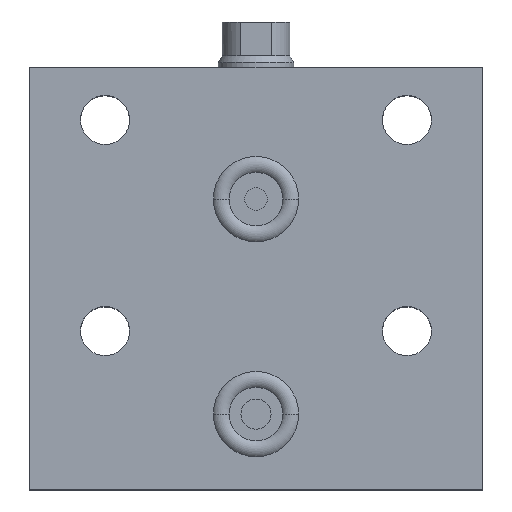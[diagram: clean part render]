
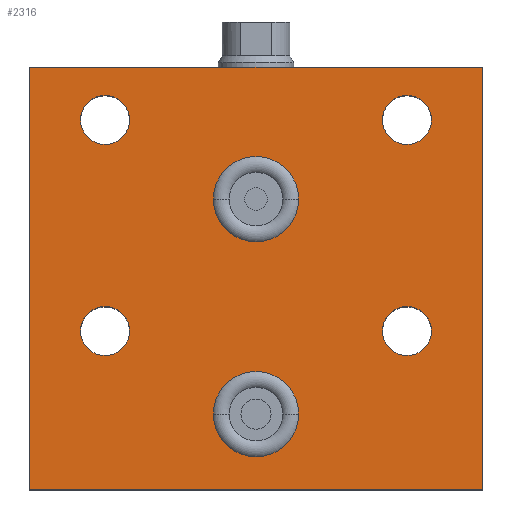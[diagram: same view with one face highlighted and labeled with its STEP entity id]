
A CAD part, top view. The second image highlights one B-rep face of the part: STEP entity #2316.
In plain terms, the highlighted planar face has unit normal (0, 0, 1).
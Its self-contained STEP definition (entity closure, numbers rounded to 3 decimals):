
#75 = CARTESIAN_POINT ( 'NONE',  ( -5.65, 38.5, 17.5 ) ) ;
#77 = DIRECTION ( 'NONE',  ( 0., 0., 1. ) ) ;
#83 = DIRECTION ( 'NONE',  ( 0., 0., 1. ) ) ;
#96 = EDGE_CURVE ( 'NONE', #1682, #815, #2333, .T. ) ;
#105 = CARTESIAN_POINT ( 'NONE',  ( 23.25, 49., 17.5 ) ) ;
#110 = EDGE_CURVE ( 'NONE', #1255, #958, #2394, .T. ) ;
#128 = ORIENTED_EDGE ( 'NONE', *, *, #1537, .F. ) ;
#131 = ORIENTED_EDGE ( 'NONE', *, *, #1241, .T. ) ;
#135 = CARTESIAN_POINT ( 'NONE',  ( -20., 21., 17.5 ) ) ;
#143 = DIRECTION ( 'NONE',  ( -1., 0., 0. ) ) ;
#144 = PLANE ( 'NONE',  #2253 ) ;
#149 = AXIS2_PLACEMENT_3D ( 'NONE', #1891, #742, #2074 ) ;
#155 = EDGE_CURVE ( 'NONE', #1608, #280, #244, .T. ) ;
#161 = EDGE_LOOP ( 'NONE', ( #2205, #237 ) ) ;
#177 = CIRCLE ( 'NONE', #1145, 3.25 ) ;
#200 = CARTESIAN_POINT ( 'NONE',  ( -30., 0., 17.5 ) ) ;
#227 = LINE ( 'NONE', #2292, #2195 ) ;
#231 = AXIS2_PLACEMENT_3D ( 'NONE', #1271, #2093, #951 ) ;
#237 = ORIENTED_EDGE ( 'NONE', *, *, #334, .F. ) ;
#242 = VECTOR ( 'NONE', #528, 1000. ) ;
#244 = CIRCLE ( 'NONE', #2461, 5.65 ) ;
#245 = ORIENTED_EDGE ( 'NONE', *, *, #1287, .F. ) ;
#280 = VERTEX_POINT ( 'NONE', #75 ) ;
#285 = VERTEX_POINT ( 'NONE', #1402 ) ;
#304 = EDGE_CURVE ( 'NONE', #2121, #285, #2451, .T. ) ;
#313 = EDGE_LOOP ( 'NONE', ( #1668, #851 ) ) ;
#316 = ORIENTED_EDGE ( 'NONE', *, *, #1078, .F. ) ;
#334 = EDGE_CURVE ( 'NONE', #280, #1608, #1497, .T. ) ;
#365 = EDGE_LOOP ( 'NONE', ( #128, #2450 ) ) ;
#404 = CARTESIAN_POINT ( 'NONE',  ( -23.25, 21., 17.5 ) ) ;
#412 = ORIENTED_EDGE ( 'NONE', *, *, #1594, .F. ) ;
#422 = DIRECTION ( 'NONE',  ( 0., 0., 1. ) ) ;
#428 = EDGE_LOOP ( 'NONE', ( #1121, #2137 ) ) ;
#440 = AXIS2_PLACEMENT_3D ( 'NONE', #1621, #484, #1818 ) ;
#472 = FACE_OUTER_BOUND ( 'NONE', #1857, .T. ) ;
#484 = DIRECTION ( 'NONE',  ( 0., 0., 1. ) ) ;
#493 = CARTESIAN_POINT ( 'NONE',  ( 16.75, 21., 17.5 ) ) ;
#494 = ORIENTED_EDGE ( 'NONE', *, *, #2397, .F. ) ;
#525 = DIRECTION ( 'NONE',  ( -1., 0., 0. ) ) ;
#528 = DIRECTION ( 'NONE',  ( 0., -1., 0. ) ) ;
#576 = CARTESIAN_POINT ( 'NONE',  ( -30., 56., 17.5 ) ) ;
#628 = VECTOR ( 'NONE', #2080, 1000. ) ;
#646 = CARTESIAN_POINT ( 'NONE',  ( 20., 49., 17.5 ) ) ;
#653 = EDGE_CURVE ( 'NONE', #1641, #1096, #1802, .T. ) ;
#703 = FACE_BOUND ( 'NONE', #428, .T. ) ;
#704 = CARTESIAN_POINT ( 'NONE',  ( 30., 0., 17.5 ) ) ;
#734 = DIRECTION ( 'NONE',  ( 0., 0., 1. ) ) ;
#742 = DIRECTION ( 'NONE',  ( 0., 0., 1. ) ) ;
#743 = LINE ( 'NONE', #1092, #242 ) ;
#760 = CARTESIAN_POINT ( 'NONE',  ( 5.65, 38.5, 17.5 ) ) ;
#767 = CARTESIAN_POINT ( 'NONE',  ( -16.75, 49., 17.5 ) ) ;
#776 = DIRECTION ( 'NONE',  ( 0., 0., 1. ) ) ;
#815 = VERTEX_POINT ( 'NONE', #404 ) ;
#839 = ORIENTED_EDGE ( 'NONE', *, *, #1480, .T. ) ;
#851 = ORIENTED_EDGE ( 'NONE', *, *, #1849, .F. ) ;
#854 = VERTEX_POINT ( 'NONE', #1739 ) ;
#856 = DIRECTION ( 'NONE',  ( 1., 0., 0. ) ) ;
#940 = CARTESIAN_POINT ( 'NONE',  ( -30., 56., 17.5 ) ) ;
#951 = DIRECTION ( 'NONE',  ( 1., 0., 0. ) ) ;
#958 = VERTEX_POINT ( 'NONE', #105 ) ;
#963 = DIRECTION ( 'NONE',  ( 0., -1., 0. ) ) ;
#966 = FACE_BOUND ( 'NONE', #1759, .T. ) ;
#977 = EDGE_CURVE ( 'NONE', #2154, #1065, #2273, .T. ) ;
#1013 = LINE ( 'NONE', #940, #628 ) ;
#1032 = DIRECTION ( 'NONE',  ( 0., 0., 1. ) ) ;
#1034 = CARTESIAN_POINT ( 'NONE',  ( 20., 49., 17.5 ) ) ;
#1065 = VERTEX_POINT ( 'NONE', #1935 ) ;
#1078 = EDGE_CURVE ( 'NONE', #285, #2121, #1972, .T. ) ;
#1089 = DIRECTION ( 'NONE',  ( 0., 0., 1. ) ) ;
#1092 = CARTESIAN_POINT ( 'NONE',  ( -30., 40., 17.5 ) ) ;
#1096 = VERTEX_POINT ( 'NONE', #1368 ) ;
#1121 = ORIENTED_EDGE ( 'NONE', *, *, #2095, .F. ) ;
#1124 = DIRECTION ( 'NONE',  ( 1., 0., 0. ) ) ;
#1133 = ORIENTED_EDGE ( 'NONE', *, *, #96, .F. ) ;
#1145 = AXIS2_PLACEMENT_3D ( 'NONE', #1876, #734, #2065 ) ;
#1159 = LINE ( 'NONE', #2182, #2180 ) ;
#1214 = CARTESIAN_POINT ( 'NONE',  ( 0., 10., 17.5 ) ) ;
#1227 = DIRECTION ( 'NONE',  ( 1., 0., 0. ) ) ;
#1241 = EDGE_CURVE ( 'NONE', #1635, #1419, #1159, .T. ) ;
#1255 = VERTEX_POINT ( 'NONE', #1612 ) ;
#1271 = CARTESIAN_POINT ( 'NONE',  ( 20., 21., 17.5 ) ) ;
#1287 = EDGE_CURVE ( 'NONE', #815, #1682, #2053, .T. ) ;
#1368 = CARTESIAN_POINT ( 'NONE',  ( -23.25, 49., 17.5 ) ) ;
#1391 = CIRCLE ( 'NONE', #2171, 3.25 ) ;
#1402 = CARTESIAN_POINT ( 'NONE',  ( 5.65, 10., 17.5 ) ) ;
#1418 = DIRECTION ( 'NONE',  ( -1., 0., 0. ) ) ;
#1419 = VERTEX_POINT ( 'NONE', #704 ) ;
#1447 = AXIS2_PLACEMENT_3D ( 'NONE', #646, #1722, #1124 ) ;
#1477 = CARTESIAN_POINT ( 'NONE',  ( -30., 40., 17.5 ) ) ;
#1479 = FACE_BOUND ( 'NONE', #1884, .T. ) ;
#1480 = EDGE_CURVE ( 'NONE', #1847, #1635, #743, .T. ) ;
#1497 = CIRCLE ( 'NONE', #2028, 5.65 ) ;
#1537 = EDGE_CURVE ( 'NONE', #1065, #2154, #177, .T. ) ;
#1560 = CARTESIAN_POINT ( 'NONE',  ( 0., 10., 17.5 ) ) ;
#1594 = EDGE_CURVE ( 'NONE', #1847, #854, #1013, .T. ) ;
#1608 = VERTEX_POINT ( 'NONE', #760 ) ;
#1612 = CARTESIAN_POINT ( 'NONE',  ( 16.75, 49., 17.5 ) ) ;
#1621 = CARTESIAN_POINT ( 'NONE',  ( -20., 21., 17.5 ) ) ;
#1629 = AXIS2_PLACEMENT_3D ( 'NONE', #1560, #422, #1749 ) ;
#1635 = VERTEX_POINT ( 'NONE', #200 ) ;
#1641 = VERTEX_POINT ( 'NONE', #767 ) ;
#1661 = DIRECTION ( 'NONE',  ( 0., 0., -1. ) ) ;
#1668 = ORIENTED_EDGE ( 'NONE', *, *, #653, .F. ) ;
#1682 = VERTEX_POINT ( 'NONE', #2108 ) ;
#1722 = DIRECTION ( 'NONE',  ( 0., 0., 1. ) ) ;
#1731 = ORIENTED_EDGE ( 'NONE', *, *, #304, .F. ) ;
#1739 = CARTESIAN_POINT ( 'NONE',  ( 30., 56., 17.5 ) ) ;
#1749 = DIRECTION ( 'NONE',  ( -1., 0., 0. ) ) ;
#1759 = EDGE_LOOP ( 'NONE', ( #1133, #245 ) ) ;
#1779 = AXIS2_PLACEMENT_3D ( 'NONE', #1214, #83, #1418 ) ;
#1802 = CIRCLE ( 'NONE', #149, 3.25 ) ;
#1818 = DIRECTION ( 'NONE',  ( 1., 0., 0. ) ) ;
#1847 = VERTEX_POINT ( 'NONE', #576 ) ;
#1849 = EDGE_CURVE ( 'NONE', #1096, #1641, #2320, .T. ) ;
#1857 = EDGE_LOOP ( 'NONE', ( #131, #494, #412, #839 ) ) ;
#1876 = CARTESIAN_POINT ( 'NONE',  ( 20., 21., 17.5 ) ) ;
#1884 = EDGE_LOOP ( 'NONE', ( #316, #1731 ) ) ;
#1891 = CARTESIAN_POINT ( 'NONE',  ( -20., 49., 17.5 ) ) ;
#1920 = CARTESIAN_POINT ( 'NONE',  ( -20., 49., 17.5 ) ) ;
#1935 = CARTESIAN_POINT ( 'NONE',  ( 23.25, 21., 17.5 ) ) ;
#1972 = CIRCLE ( 'NONE', #1629, 5.65 ) ;
#1990 = FACE_BOUND ( 'NONE', #365, .T. ) ;
#1996 = CARTESIAN_POINT ( 'NONE',  ( -5.65, 10., 17.5 ) ) ;
#2028 = AXIS2_PLACEMENT_3D ( 'NONE', #2177, #1032, #2373 ) ;
#2042 = FACE_BOUND ( 'NONE', #313, .T. ) ;
#2053 = CIRCLE ( 'NONE', #440, 3.25 ) ;
#2065 = DIRECTION ( 'NONE',  ( 1., 0., 0. ) ) ;
#2073 = AXIS2_PLACEMENT_3D ( 'NONE', #135, #77, #2170 ) ;
#2074 = DIRECTION ( 'NONE',  ( 1., 0., 0. ) ) ;
#2080 = DIRECTION ( 'NONE',  ( 1., 0., 0. ) ) ;
#2093 = DIRECTION ( 'NONE',  ( 0., 0., 1. ) ) ;
#2095 = EDGE_CURVE ( 'NONE', #958, #1255, #1391, .T. ) ;
#2105 = DIRECTION ( 'NONE',  ( 1., 0., 0. ) ) ;
#2108 = CARTESIAN_POINT ( 'NONE',  ( -16.75, 21., 17.5 ) ) ;
#2121 = VERTEX_POINT ( 'NONE', #1996 ) ;
#2137 = ORIENTED_EDGE ( 'NONE', *, *, #110, .F. ) ;
#2154 = VERTEX_POINT ( 'NONE', #493 ) ;
#2170 = DIRECTION ( 'NONE',  ( 1., 0., 0. ) ) ;
#2171 = AXIS2_PLACEMENT_3D ( 'NONE', #1034, #2375, #1227 ) ;
#2177 = CARTESIAN_POINT ( 'NONE',  ( 0., 38.5, 17.5 ) ) ;
#2180 = VECTOR ( 'NONE', #856, 1000. ) ;
#2182 = CARTESIAN_POINT ( 'NONE',  ( -30., 0., 17.5 ) ) ;
#2195 = VECTOR ( 'NONE', #963, 1000. ) ;
#2205 = ORIENTED_EDGE ( 'NONE', *, *, #155, .F. ) ;
#2253 = AXIS2_PLACEMENT_3D ( 'NONE', #1477, #1661, #525 ) ;
#2273 = CIRCLE ( 'NONE', #231, 3.25 ) ;
#2292 = CARTESIAN_POINT ( 'NONE',  ( 30., 40., 17.5 ) ) ;
#2316 = ADVANCED_FACE ( 'NONE', ( #1479, #703, #2042, #1990, #966, #472, #2434 ), #144, .F. ) ;
#2320 = CIRCLE ( 'NONE', #2467, 3.25 ) ;
#2333 = CIRCLE ( 'NONE', #2073, 3.25 ) ;
#2373 = DIRECTION ( 'NONE',  ( -1., 0., 0. ) ) ;
#2375 = DIRECTION ( 'NONE',  ( 0., 0., 1. ) ) ;
#2394 = CIRCLE ( 'NONE', #1447, 3.25 ) ;
#2397 = EDGE_CURVE ( 'NONE', #854, #1419, #227, .T. ) ;
#2429 = CARTESIAN_POINT ( 'NONE',  ( 0., 38.5, 17.5 ) ) ;
#2434 = FACE_BOUND ( 'NONE', #161, .T. ) ;
#2450 = ORIENTED_EDGE ( 'NONE', *, *, #977, .F. ) ;
#2451 = CIRCLE ( 'NONE', #1779, 5.65 ) ;
#2461 = AXIS2_PLACEMENT_3D ( 'NONE', #2429, #1089, #143 ) ;
#2467 = AXIS2_PLACEMENT_3D ( 'NONE', #1920, #776, #2105 ) ;
